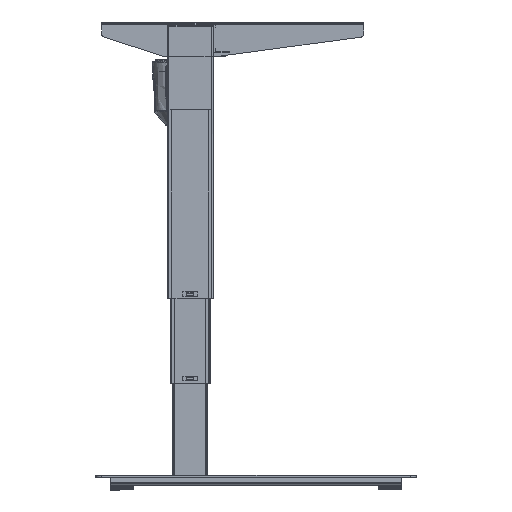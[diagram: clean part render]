
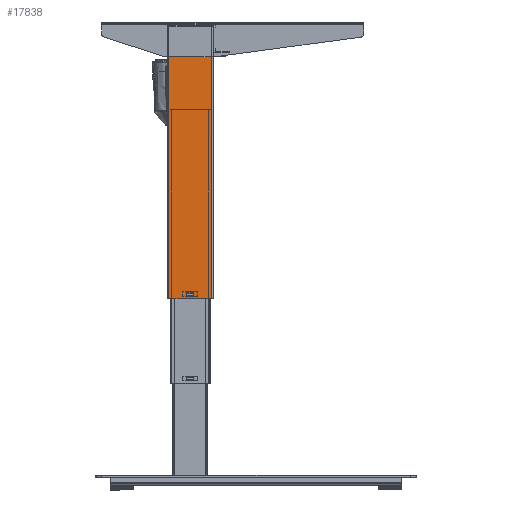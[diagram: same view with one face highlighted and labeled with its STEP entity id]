
A CAD part, left-side view. The second image highlights one B-rep face of the part: STEP entity #17838.
In plain terms, the highlighted planar face has unit normal (-1, 0, 0).
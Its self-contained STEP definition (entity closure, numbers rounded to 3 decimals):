
#9 = EDGE_CURVE ( 'NONE', #39201, #7152, #35440, .T. ) ;
#343 = VERTEX_POINT ( 'NONE', #66870 ) ;
#953 = VECTOR ( 'NONE', #51871, 1000. ) ;
#1091 = VECTOR ( 'NONE', #27509, 1000. ) ;
#1578 = ORIENTED_EDGE ( 'NONE', *, *, #5116, .T. ) ;
#4173 = VERTEX_POINT ( 'NONE', #54950 ) ;
#5116 = EDGE_CURVE ( 'NONE', #21442, #45392, #20656, .T. ) ;
#5570 = DIRECTION ( 'NONE',  ( 0., 0., 1. ) ) ;
#6040 = VECTOR ( 'NONE', #23403, 1000. ) ;
#7152 = VERTEX_POINT ( 'NONE', #60416 ) ;
#7648 = DIRECTION ( 'NONE',  ( 1., 0., 0. ) ) ;
#12584 = ORIENTED_EDGE ( 'NONE', *, *, #60396, .T. ) ;
#12763 = CARTESIAN_POINT ( 'NONE',  ( -30., 6., 6. ) ) ;
#13607 = EDGE_CURVE ( 'NONE', #23520, #21442, #66787, .T. ) ;
#14043 = EDGE_CURVE ( 'NONE', #45392, #343, #21018, .T. ) ;
#17507 = EDGE_LOOP ( 'NONE', ( #61172, #40179, #54323, #1578 ) ) ;
#17838 = ADVANCED_FACE ( 'NONE', ( #29200, #34386 ), #29478, .F. ) ;
#20502 = CARTESIAN_POINT ( 'NONE',  ( -30., 6., 10. ) ) ;
#20656 = LINE ( 'NONE', #34464, #6040 ) ;
#20749 = CARTESIAN_POINT ( 'NONE',  ( -30., -6., 10. ) ) ;
#20772 = AXIS2_PLACEMENT_3D ( 'NONE', #40760, #7648, #45978 ) ;
#21018 = LINE ( 'NONE', #54159, #44990 ) ;
#21442 = VERTEX_POINT ( 'NONE', #35360 ) ;
#22435 = LINE ( 'NONE', #49808, #25881 ) ;
#23403 = DIRECTION ( 'NONE',  ( 0., 1., 0. ) ) ;
#23520 = VERTEX_POINT ( 'NONE', #20749 ) ;
#23591 = DIRECTION ( 'NONE',  ( 0., 0., -1. ) ) ;
#25881 = VECTOR ( 'NONE', #28557, 1000. ) ;
#27509 = DIRECTION ( 'NONE',  ( 0., 0., -1. ) ) ;
#28557 = DIRECTION ( 'NONE',  ( 0., -1., 0. ) ) ;
#29200 = FACE_BOUND ( 'NONE', #17507, .T. ) ;
#29478 = PLANE ( 'NONE',  #20772 ) ;
#30468 = VECTOR ( 'NONE', #31063, 1000. ) ;
#30685 = VECTOR ( 'NONE', #59086, 1000. ) ;
#31063 = DIRECTION ( 'NONE',  ( 0., -1., 0. ) ) ;
#33472 = CARTESIAN_POINT ( 'NONE',  ( -30., -6., 10. ) ) ;
#34386 = FACE_OUTER_BOUND ( 'NONE', #62662, .T. ) ;
#34464 = CARTESIAN_POINT ( 'NONE',  ( -30., 6., 6. ) ) ;
#35360 = CARTESIAN_POINT ( 'NONE',  ( -30., -6., 6. ) ) ;
#35440 = LINE ( 'NONE', #70769, #1091 ) ;
#39201 = VERTEX_POINT ( 'NONE', #66396 ) ;
#40179 = ORIENTED_EDGE ( 'NONE', *, *, #47901, .T. ) ;
#40760 = CARTESIAN_POINT ( 'NONE',  ( -30., 37., 480. ) ) ;
#41599 = VERTEX_POINT ( 'NONE', #53453 ) ;
#44017 = ORIENTED_EDGE ( 'NONE', *, *, #56277, .T. ) ;
#44990 = VECTOR ( 'NONE', #5570, 1000. ) ;
#45392 = VERTEX_POINT ( 'NONE', #12763 ) ;
#45837 = ORIENTED_EDGE ( 'NONE', *, *, #9, .T. ) ;
#45978 = DIRECTION ( 'NONE',  ( 0., 1., 0. ) ) ;
#47901 = EDGE_CURVE ( 'NONE', #343, #23520, #54391, .T. ) ;
#49808 = CARTESIAN_POINT ( 'NONE',  ( -30., 37., 0. ) ) ;
#51629 = CARTESIAN_POINT ( 'NONE',  ( -30., -40., 475. ) ) ;
#51871 = DIRECTION ( 'NONE',  ( 0., 1., 0. ) ) ;
#53453 = CARTESIAN_POINT ( 'NONE',  ( -30., -37., 475. ) ) ;
#53622 = CARTESIAN_POINT ( 'NONE',  ( -30., -37., 480. ) ) ;
#54159 = CARTESIAN_POINT ( 'NONE',  ( -30., 6., 10. ) ) ;
#54286 = EDGE_CURVE ( 'NONE', #41599, #4173, #66574, .T. ) ;
#54323 = ORIENTED_EDGE ( 'NONE', *, *, #13607, .T. ) ;
#54391 = LINE ( 'NONE', #20502, #30468 ) ;
#54950 = CARTESIAN_POINT ( 'NONE',  ( -30., -37., 0. ) ) ;
#56277 = EDGE_CURVE ( 'NONE', #41599, #39201, #60907, .T. ) ;
#58828 = ORIENTED_EDGE ( 'NONE', *, *, #54286, .F. ) ;
#59086 = DIRECTION ( 'NONE',  ( 0., 0., -1. ) ) ;
#60396 = EDGE_CURVE ( 'NONE', #7152, #4173, #22435, .T. ) ;
#60416 = CARTESIAN_POINT ( 'NONE',  ( -30., 37., 0. ) ) ;
#60907 = LINE ( 'NONE', #51629, #953 ) ;
#61172 = ORIENTED_EDGE ( 'NONE', *, *, #14043, .T. ) ;
#62662 = EDGE_LOOP ( 'NONE', ( #58828, #44017, #45837, #12584 ) ) ;
#66396 = CARTESIAN_POINT ( 'NONE',  ( -30., 37., 475. ) ) ;
#66574 = LINE ( 'NONE', #53622, #30685 ) ;
#66787 = LINE ( 'NONE', #33472, #67631 ) ;
#66870 = CARTESIAN_POINT ( 'NONE',  ( -30., 6., 10. ) ) ;
#67631 = VECTOR ( 'NONE', #23591, 1000. ) ;
#70769 = CARTESIAN_POINT ( 'NONE',  ( -30., 37., 480. ) ) ;
